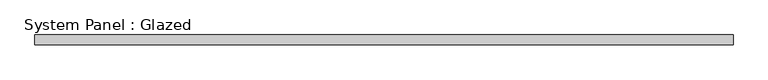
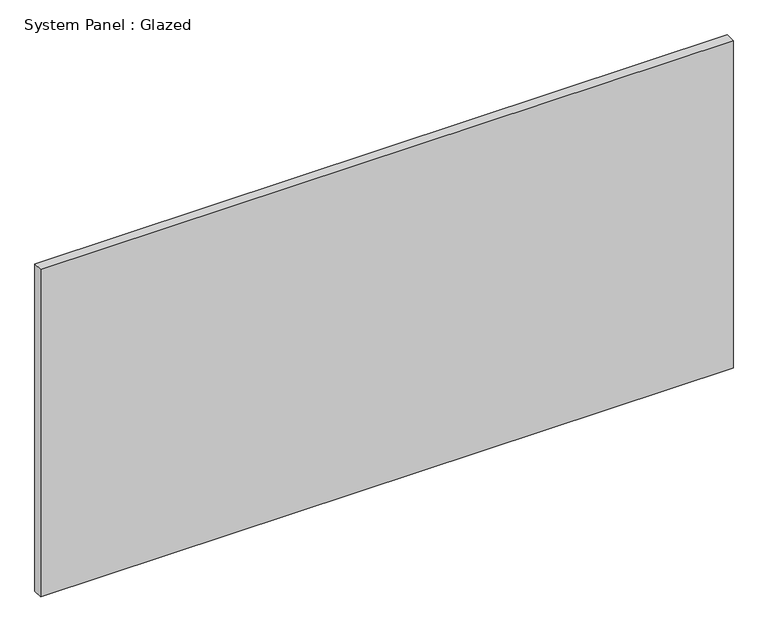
"""IFC4 building model written with IfcOpenShell, lengths in millimetres: plate geometry, System Panel : Glazed."""

from ifc_helpers import new_model, si_unit, origin, origin_with_axes, place, context, project, spatial, polyline, outline, extrude, source, transform, mapped, element, save


def system_panel_glazed_7d142148(model_context):
    return source(origin(), model_context, "Body", "SweptSolid", [
        extrude(outline(polyline([(882.65, 19.05), (-882.65, 19.05), (-882.65, 44.45), (882.65, 44.45), (882.65, 19.05)])), origin_with_axes(), (0.0, 0.0, 1.0), 882.65),
    ])


if __name__ == "__main__":
    model = new_model("IFC4")
    model_context = context("Model", 3, world=origin())
    ifc_project = project(units=[si_unit("LENGTHUNIT", "METRE", prefix="MILLI")], contexts=[model_context])
    site = spatial("IfcSite", under=ifc_project)
    building = spatial("IfcBuilding", under=site)
    placement = place(None, origin())
    system_panel_glazed_shape = system_panel_glazed_7d142148(model_context)
    element("IfcPlate", 1, ObjectType="System Panel : Glazed", at=placement, inside=building, context=model_context, shape_type="MappedRepresentation", body=[
        mapped(system_panel_glazed_shape, transform((0.0, 0.0, 0.0), x_axis=(1.0, 0.0, 0.0), y_axis=(0.0, 1.0, 0.0), z_axis=(0.0, 0.0, 1.0))),
    ])
    save(model, "model.ifc")
